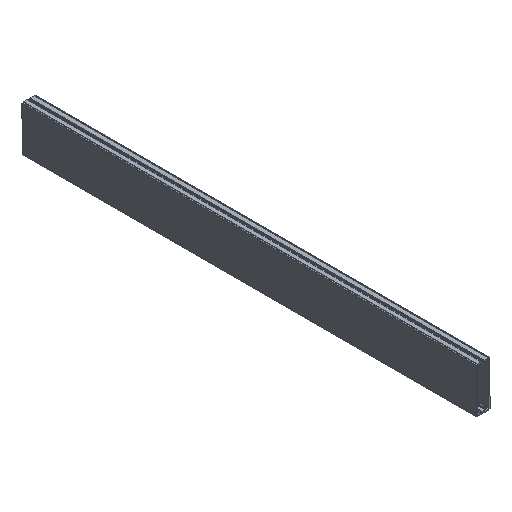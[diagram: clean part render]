
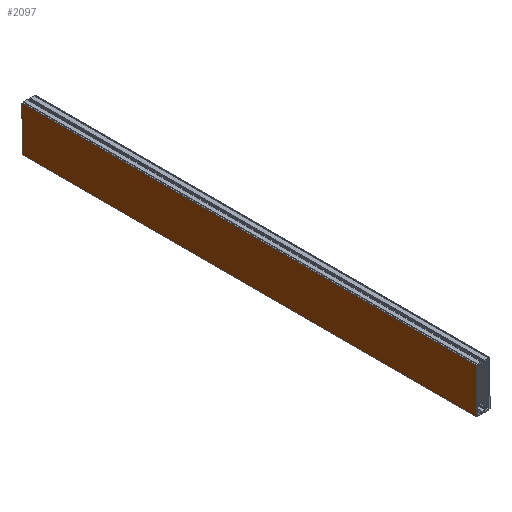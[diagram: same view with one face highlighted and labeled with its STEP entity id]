
A CAD part, isometric view. The second image highlights one B-rep face of the part: STEP entity #2097.
In plain terms, the highlighted planar face has unit normal (-1, 0, 0).
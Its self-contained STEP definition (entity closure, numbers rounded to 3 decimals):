
#14 = VECTOR ( 'NONE', #3504, 1000. ) ;
#63 = DIRECTION ( 'NONE',  ( 1., 0., 0. ) ) ;
#133 = VERTEX_POINT ( 'NONE', #2010 ) ;
#246 = EDGE_CURVE ( 'NONE', #2983, #133, #3602, .T. ) ;
#305 = VERTEX_POINT ( 'NONE', #2338 ) ;
#511 = ORIENTED_EDGE ( 'NONE', *, *, #2176, .T. ) ;
#544 = DIRECTION ( 'NONE',  ( 0., -1., 0. ) ) ;
#637 = ORIENTED_EDGE ( 'NONE', *, *, #749, .T. ) ;
#749 = EDGE_CURVE ( 'NONE', #2331, #305, #2289, .T. ) ;
#888 = EDGE_LOOP ( 'NONE', ( #511, #3378, #976, #637 ) ) ;
#976 = ORIENTED_EDGE ( 'NONE', *, *, #2465, .F. ) ;
#999 = DIRECTION ( 'NONE',  ( 0., 0., -1. ) ) ;
#1710 = CARTESIAN_POINT ( 'NONE',  ( -45.5, 3000., -147.5 ) ) ;
#1821 = AXIS2_PLACEMENT_3D ( 'NONE', #3343, #63, #999 ) ;
#1869 = PLANE ( 'NONE',  #1821 ) ;
#2010 = CARTESIAN_POINT ( 'NONE',  ( -45.5, 0., 147.5 ) ) ;
#2097 = ADVANCED_FACE ( 'NONE', ( #3686 ), #1869, .F. ) ;
#2176 = EDGE_CURVE ( 'NONE', #305, #133, #2849, .T. ) ;
#2289 = LINE ( 'NONE', #1710, #3047 ) ;
#2331 = VERTEX_POINT ( 'NONE', #3832 ) ;
#2338 = CARTESIAN_POINT ( 'NONE',  ( -45.5, 0., -147.5 ) ) ;
#2417 = VECTOR ( 'NONE', #544, 1000. ) ;
#2465 = EDGE_CURVE ( 'NONE', #2331, #2983, #3811, .T. ) ;
#2849 = LINE ( 'NONE', #3779, #3685 ) ;
#2900 = CARTESIAN_POINT ( 'NONE',  ( -45.5, 3000., -147.5 ) ) ;
#2983 = VERTEX_POINT ( 'NONE', #3114 ) ;
#3047 = VECTOR ( 'NONE', #3481, 1000. ) ;
#3114 = CARTESIAN_POINT ( 'NONE',  ( -45.5, 3000., 147.5 ) ) ;
#3196 = DIRECTION ( 'NONE',  ( 0., 0., 1. ) ) ;
#3250 = CARTESIAN_POINT ( 'NONE',  ( -45.5, 3000., 147.5 ) ) ;
#3343 = CARTESIAN_POINT ( 'NONE',  ( -45.5, 3000., -147.5 ) ) ;
#3378 = ORIENTED_EDGE ( 'NONE', *, *, #246, .F. ) ;
#3481 = DIRECTION ( 'NONE',  ( 0., -1., 0. ) ) ;
#3504 = DIRECTION ( 'NONE',  ( 0., 0., 1. ) ) ;
#3602 = LINE ( 'NONE', #3250, #2417 ) ;
#3685 = VECTOR ( 'NONE', #3196, 1000. ) ;
#3686 = FACE_OUTER_BOUND ( 'NONE', #888, .T. ) ;
#3779 = CARTESIAN_POINT ( 'NONE',  ( -45.5, 0., -147.5 ) ) ;
#3811 = LINE ( 'NONE', #2900, #14 ) ;
#3832 = CARTESIAN_POINT ( 'NONE',  ( -45.5, 3000., -147.5 ) ) ;
